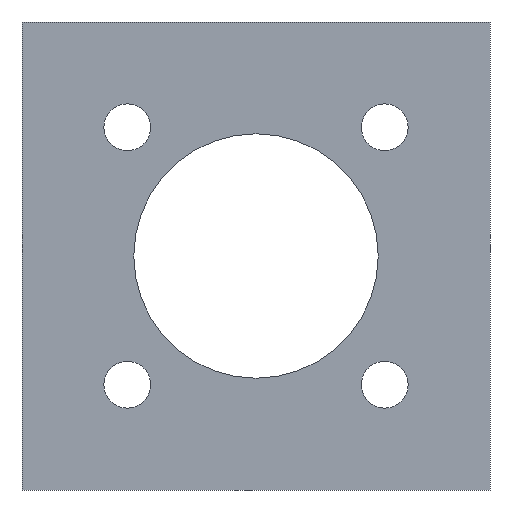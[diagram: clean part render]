
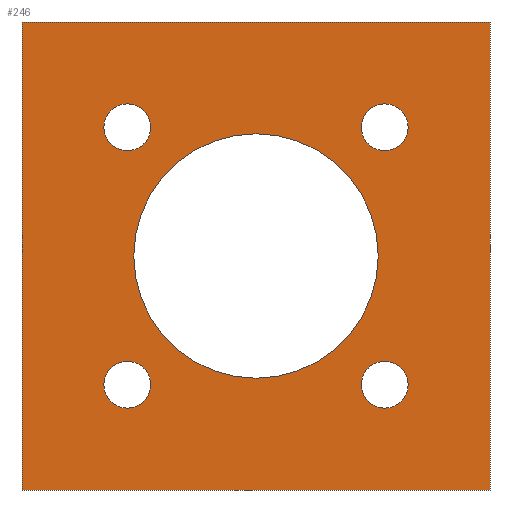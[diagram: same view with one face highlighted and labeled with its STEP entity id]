
A CAD part, left-side view. The second image highlights one B-rep face of the part: STEP entity #246.
In plain terms, the highlighted planar face has unit normal (-1, 0, 0).
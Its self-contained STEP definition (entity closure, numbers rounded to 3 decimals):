
#20=FACE_BOUND('',#58,.T.);
#21=FACE_BOUND('',#59,.T.);
#22=FACE_BOUND('',#60,.T.);
#23=FACE_BOUND('',#61,.T.);
#24=FACE_BOUND('',#62,.T.);
#30=PLANE('',#292);
#41=FACE_OUTER_BOUND('',#57,.T.);
#57=EDGE_LOOP('',(#222,#223,#224,#225));
#58=EDGE_LOOP('',(#226));
#59=EDGE_LOOP('',(#227));
#60=EDGE_LOOP('',(#228));
#61=EDGE_LOOP('',(#229));
#62=EDGE_LOOP('',(#230));
#68=LINE('',#408,#85);
#72=LINE('',#416,#89);
#75=LINE('',#422,#92);
#78=LINE('',#427,#95);
#85=VECTOR('',#342,10.);
#89=VECTOR('',#348,10.);
#92=VECTOR('',#353,10.);
#95=VECTOR('',#358,10.);
#99=CIRCLE('',#270,4.5);
#102=CIRCLE('',#274,4.5);
#105=CIRCLE('',#278,4.5);
#108=CIRCLE('',#282,4.5);
#111=CIRCLE('',#286,23.5);
#114=VERTEX_POINT('',#370);
#117=VERTEX_POINT('',#378);
#120=VERTEX_POINT('',#386);
#123=VERTEX_POINT('',#394);
#126=VERTEX_POINT('',#402);
#127=VERTEX_POINT('',#406);
#128=VERTEX_POINT('',#407);
#131=VERTEX_POINT('',#415);
#133=VERTEX_POINT('',#421);
#138=EDGE_CURVE('',#114,#114,#99,.T.);
#142=EDGE_CURVE('',#117,#117,#102,.T.);
#146=EDGE_CURVE('',#120,#120,#105,.T.);
#150=EDGE_CURVE('',#123,#123,#108,.T.);
#154=EDGE_CURVE('',#126,#126,#111,.T.);
#155=EDGE_CURVE('',#127,#128,#68,.T.);
#159=EDGE_CURVE('',#131,#127,#72,.T.);
#162=EDGE_CURVE('',#133,#131,#75,.T.);
#165=EDGE_CURVE('',#128,#133,#78,.T.);
#222=ORIENTED_EDGE('',*,*,#165,.F.);
#223=ORIENTED_EDGE('',*,*,#155,.F.);
#224=ORIENTED_EDGE('',*,*,#159,.F.);
#225=ORIENTED_EDGE('',*,*,#162,.F.);
#226=ORIENTED_EDGE('',*,*,#138,.T.);
#227=ORIENTED_EDGE('',*,*,#142,.T.);
#228=ORIENTED_EDGE('',*,*,#146,.T.);
#229=ORIENTED_EDGE('',*,*,#150,.T.);
#230=ORIENTED_EDGE('',*,*,#154,.T.);
#246=ADVANCED_FACE('',(#41,#20,#21,#22,#23,#24),#30,.F.);
#270=AXIS2_PLACEMENT_3D('',#372,#302,#303);
#274=AXIS2_PLACEMENT_3D('',#380,#311,#312);
#278=AXIS2_PLACEMENT_3D('',#388,#320,#321);
#282=AXIS2_PLACEMENT_3D('',#396,#329,#330);
#286=AXIS2_PLACEMENT_3D('',#404,#338,#339);
#292=AXIS2_PLACEMENT_3D('',#430,#362,#363);
#302=DIRECTION('center_axis',(1.,0.,0.));
#303=DIRECTION('ref_axis',(0.,0.,-1.));
#311=DIRECTION('center_axis',(1.,0.,0.));
#312=DIRECTION('ref_axis',(0.,0.,-1.));
#320=DIRECTION('center_axis',(1.,0.,0.));
#321=DIRECTION('ref_axis',(0.,0.,-1.));
#329=DIRECTION('center_axis',(1.,0.,0.));
#330=DIRECTION('ref_axis',(0.,0.,-1.));
#338=DIRECTION('center_axis',(1.,0.,0.));
#339=DIRECTION('ref_axis',(0.,0.,-1.));
#342=DIRECTION('',(0.,1.,0.));
#348=DIRECTION('',(0.,0.,-1.));
#353=DIRECTION('',(0.,-1.,0.));
#358=DIRECTION('',(0.,0.,1.));
#362=DIRECTION('center_axis',(1.,0.,0.));
#363=DIRECTION('ref_axis',(0.,0.,-1.));
#370=CARTESIAN_POINT('',(0.,20.251,-65.249));
#372=CARTESIAN_POINT('Origin',(0.,20.251,-69.749));
#378=CARTESIAN_POINT('',(0.,69.749,-15.751));
#380=CARTESIAN_POINT('Origin',(0.,69.749,-20.251));
#386=CARTESIAN_POINT('',(0.,69.749,-65.249));
#388=CARTESIAN_POINT('Origin',(0.,69.749,-69.749));
#394=CARTESIAN_POINT('',(0.,20.251,-15.751));
#396=CARTESIAN_POINT('Origin',(0.,20.251,-20.251));
#402=CARTESIAN_POINT('',(0.,45.,-21.5));
#404=CARTESIAN_POINT('Origin',(0.,45.,-45.));
#406=CARTESIAN_POINT('',(0.,0.,-90.));
#407=CARTESIAN_POINT('',(0.,90.,-90.));
#408=CARTESIAN_POINT('',(0.,0.,-90.));
#415=CARTESIAN_POINT('',(0.,0.,0.));
#416=CARTESIAN_POINT('',(0.,0.,0.));
#421=CARTESIAN_POINT('',(0.,90.,0.));
#422=CARTESIAN_POINT('',(0.,90.,0.));
#427=CARTESIAN_POINT('',(0.,90.,-90.));
#430=CARTESIAN_POINT('Origin',(0.,45.,-45.));
